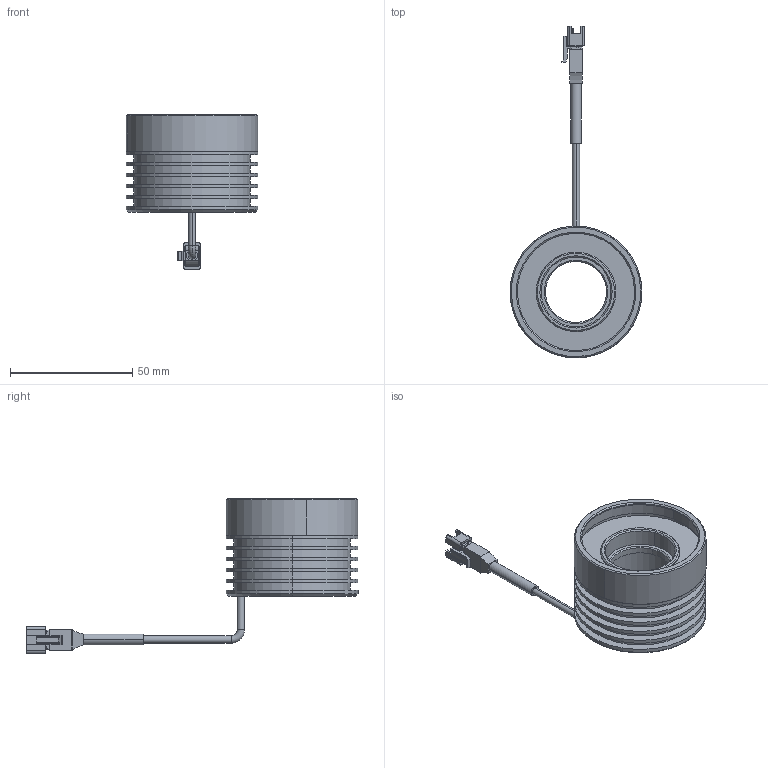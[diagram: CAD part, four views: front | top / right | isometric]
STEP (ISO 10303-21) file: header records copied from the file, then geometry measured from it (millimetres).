
FILE_DESCRIPTION (( 'STEP AP203' ), '1' );
FILE_NAME ('VOR-5430W-TCH110 _ Drawing _ L1565A-A00101.STEP', '2025-10-21T03:15:40', ( '' ), ( '' ), 'SwSTEP 2.0', 'SolidWorks 2020', '' );
FILE_SCHEMA (( 'CONFIG_CONTROL_DESIGN' ));
Length unit declared in the file: millimetre
Products named in the file (5): JST SMR-03V-B + 3mm 24AWG CABLE; VHAT-5430W-TCH110 _ TMR1034D301A _ 基座 _ L1565A_M00101; VOR-5430W-TCH110 _ Drawing _ L1565A-A00101; VHAT-5430W-TCH110 _ TMR1034D302A _ 轉接環 _ L1565A_M00201; VHAT-5430W-TCH110 _ TMR1034D303A _ 外框圈 _ L1565A_M00301
Assembly tree (4 placements, depth 2):
  VOR-5430W-TCH110 _ Drawing _ L1565A-A00101
    VHAT-5430W-TCH110 _ TMR1034D301A _ 基座 _ L1565A_M00101
    VHAT-5430W-TCH110 _ TMR1034D303A _ 外框圈 _ L1565A_M00301
    VHAT-5430W-TCH110 _ TMR1034D302A _ 轉接環 _ L1565A_M00201
    JST SMR-03V-B + 3mm 24AWG CABLE
Bounding box: 54 x 136 x 63.43 mm (x, y, z)
Volume: 48299.1 mm3; surface area: 26928.8 mm2
Topology: 5 solids, 5 shells, 284 faces, 677 edges, 434 vertices
Faces by surface type: plane 155, cylinder 105, cone 14, torus 6, bspline 4
Entity records: 8822 total; most frequent: CARTESIAN_POINT 1650, DIRECTION 1407, ORIENTED_EDGE 1354, EDGE_CURVE 677, AXIS2_PLACEMENT_3D 479, VECTOR 449, LINE 449, VERTEX_POINT 434
